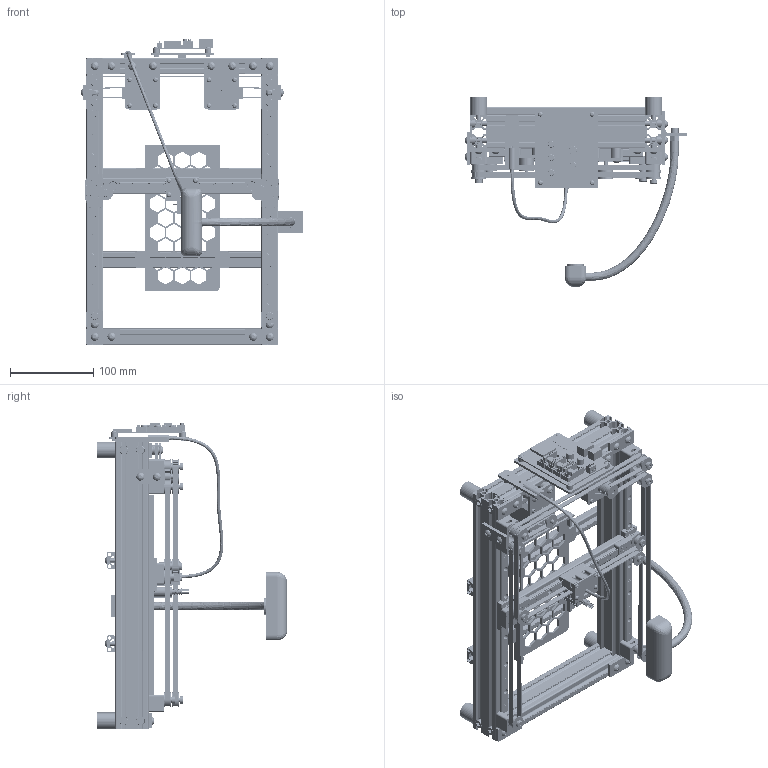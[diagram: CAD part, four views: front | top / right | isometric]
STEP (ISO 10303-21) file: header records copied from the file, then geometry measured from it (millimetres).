
FILE_DESCRIPTION(('Open CASCADE Model'),'2;1');
FILE_NAME('camera_40_frame','2026-07-29T11:06:14',('Author'),( 'Open CASCADE'),'Open CASCADE STEP processor 7.8','build123d', 'Unknown');
FILE_SCHEMA(('AUTOMOTIVE_DESIGN { 1 0 10303 214 1 1 1 1 }'));
Length unit declared in the file: millimetre
Products named in the file (281): camera_40_frame; board_40_teflon; board_32_tube_holder; board_30_pcb; board_20_frame; phone_40_bed_frame; tapz_20_solenoid_mount; belt_30_motor_b; belt_20_clamp; belt_10_motor_a; linear_47_idler_rj2; linear_45_idler_rj1; linear_43_idler_lj2; linear_41_idler_lj1; linear_33_x; linear_31_x; linear_20_joint; linear_11_y; motor_30_pulley; motor_21_frame; motor_11_frame; idler_41_rd; idler_31_ld; idler_22_ru; idler_12_lu; frame_41_bumper; frame_31_bracket; frame_20_SHCS; frame_10_extrusion_tnut; Extrusion2040_345mm_cb; SOLID; TNut_standard_M5; Extrusion2040_190mm; Screw_SHCS_M6x20; frame_30_bracket_tnut; FlatBracket; TNut_hammer_M5; Screw_BHCS_M5x10; frame_40_bumper_tnut; Bumper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
Assembly tree (473 placements, depth 31):
  camera_40_frame
    board_40_teflon
      board_32_tube_holder
        board_30_pcb
          board_20_frame
            phone_40_bed_frame
              tapz_20_solenoid_mount
                belt_30_motor_b
                  belt_20_clamp
                    Screw_BHCS_M3x8  x4
                  Belt
                tapz_11_solenoid_attach
                  tapz_10_solenoid_tip
                  SolenoidMount
                  Screw_BHCS_M3x6  x2
                Screw_BHCS_M3x8  x4
                  SOLID
                Nut  x6
                  SOLID
                Screw_FHCS_M3x10  x2
                  SOLID
              phone_30_bed_extrusion
                ASSEMBLY
                  ASSEMBLY
                  ASSEMBLY
                  ASSEMBLY
                  ASSEMBLY
                  ASSEMBLY
                ASSEMBLY
                  ASSEMBLY
                  ASSEMBLY
                  ASSEMBLY
                  ASSEMBLY
                  ASSEMBLY
                ASSEMBLY
                  ASSEMBLY
                  ASSEMBLY
                  ASSEMBLY
                  ASSEMBLY
                  ASSEMBLY
                  ASSEMBLY
                  ASSEMBLY
                  ASSEMBLY
                  ASSEMBLY
            board_10_holder_tnut
              PcbHolder
                SOLID
              Screw_FHCS_M5x12  x2
                SOLID
              TNut_hammer_M5  x2
                SOLID
          MksBoard
            ASSEMBLY
              SOLID
            ASSEMBLY  x4
              SOLID
              SOLID
            ASSEMBLY  x6
              SOLID
            ASSEMBLY  x3
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Bounding box: 266.6 x 228.06 x 367.6 mm (x, y, z)
Volume: 910090.2 mm3; surface area: 742609.8 mm2
Topology: 316 solids, 316 shells, 9387 faces, 24370 edges, 16091 vertices
Faces by surface type: plane 7522, cylinder 1500, cone 252, sphere 54, extrusion 33, bspline 18, torus 8
Full cylindrical faces by diameter (mm): 1 x4, 1.4 x6, 2 x14, 2.1 x1, 2.6 x8, 2.709 x22, 2.8 x9, 3 x116, 3.3 x8, 3.4 x62, 3.5 x31, 3.864 x29, 4 x23, 4.2 x6, 4.3 x23, 5 x112, 5.2 x2, 5.3 x22, 5.5 x38, 5.65 x7, 5.7 x22, 5.8 x3, 6 x69, 6.2 x24, 6.35 x10, 6.4 x28, 6.5 x2, 7 x1, 7.9 x1, 8 x22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
Entity records: 323907 total; most frequent: CARTESIAN_POINT 70069, DIRECTION 46156, VECTOR 31388, LINE 31355, ORIENTED_EDGE 24738, PCURVE 24738, DEFINITIONAL_REPRESENTATION 24738, EDGE_CURVE 12369
